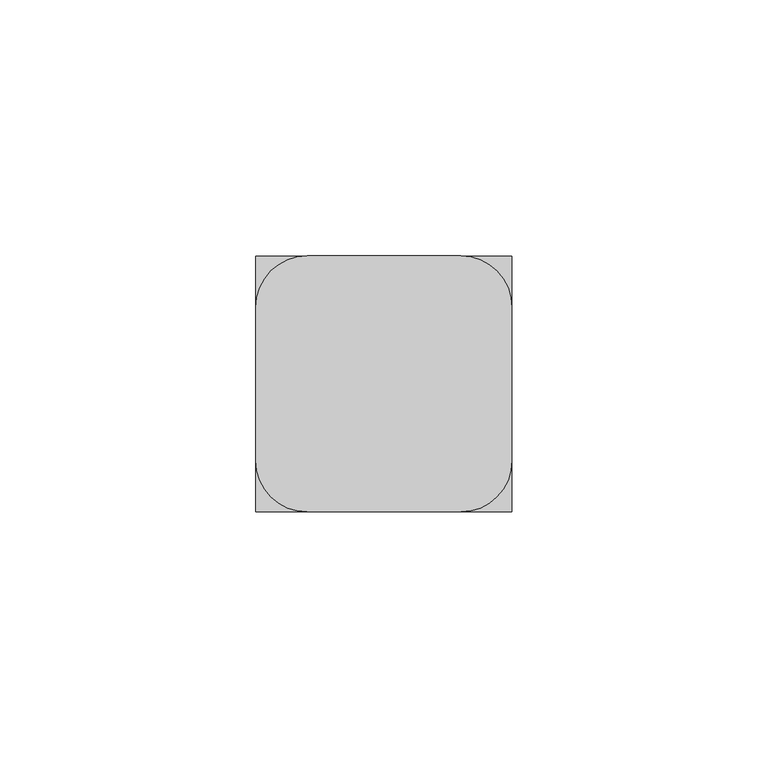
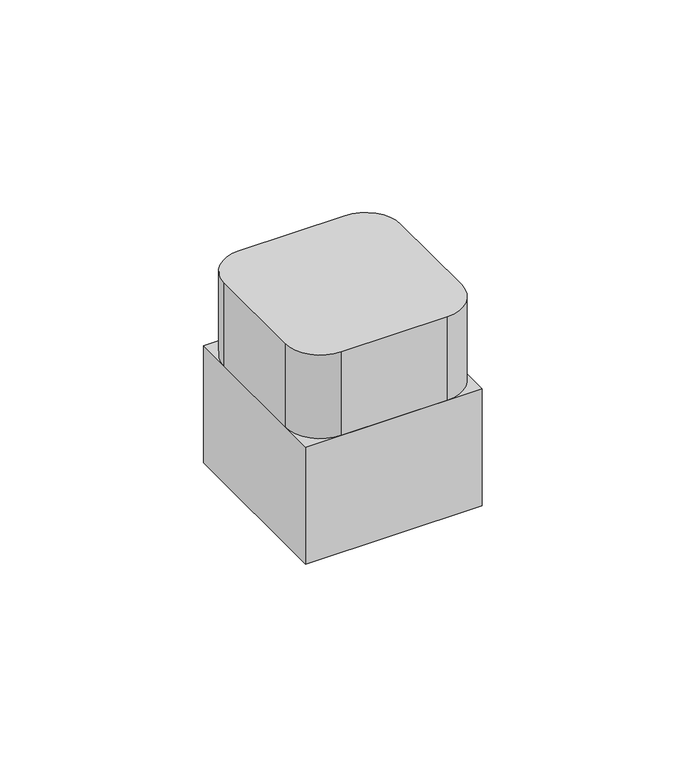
"""IFC4 building model written with IfcOpenShell, lengths in millimetres: furniture geometry, Pixel_Single : Pixel_Single."""

from ifc_helpers import new_model, si_unit, point, frame, frame_2d, origin, origin_with_axes, place, context, project, spatial, polyline, circle_curve, trimmed, segment, composite_curve, outline, extrude, source, transform, mapped, element, save


def furniture_5129da02(model_context):
    return source(origin(), model_context, "Body", "SweptSolid", [
        extrude(outline(composite_curve([segment(trimmed(circle_curve(frame_2d((10.0, 40.0)), 10.0), [point((0.0, 40.0))], [point((10.0, 50.0))], False, "CARTESIAN"), True, "CONTINUOUS"), segment(polyline([(10.0, 50.0), (40.0, 50.0)]), True, "CONTINUOUS"), segment(trimmed(circle_curve(frame_2d((40.0, 40.0)), 10.0), [point((40.0, 50.0))], [point((50.0, 40.0))], False, "CARTESIAN"), True, "CONTINUOUS"), segment(polyline([(50.0, 40.0), (50.0, 10.0)]), True, "CONTINUOUS"), segment(trimmed(circle_curve(frame_2d((40.0, 10.0)), 10.0), [point((50.0, 10.0))], [point((40.0, 0.0))], False, "CARTESIAN"), True, "CONTINUOUS"), segment(polyline([(40.0, 0.0), (10.0, 0.0)]), True, "CONTINUOUS"), segment(trimmed(circle_curve(frame_2d((10.0, 10.0)), 10.0), [point((10.0, 0.0))], [point((0.0, 10.0))], False, "CARTESIAN"), True, "CONTINUOUS"), segment(polyline([(0.0, 10.0), (0.0, 40.0)]), True, "CONTINUOUS")], self_intersect=False)), frame((0.0, 0.0, 35.0), z_axis=(0.0, 0.0, 1.0), x_axis=(1.0, 0.0, 0.0)), (0.0, 0.0, 1.0), 25.0),
        extrude(outline(polyline([(50.0, 50.0), (50.0, 0.0), (0.0, 0.0), (0.0, 50.0), (50.0, 50.0)])), origin_with_axes(), (0.0, 0.0, 1.0), 35.0),
    ])


if __name__ == "__main__":
    model = new_model("IFC4")
    model_context = context("Model", 3, world=origin())
    ifc_project = project(units=[si_unit("LENGTHUNIT", "METRE", prefix="MILLI")], contexts=[model_context])
    site = spatial("IfcSite", under=ifc_project)
    building = spatial("IfcBuilding", under=site)
    placement = place(None, origin())
    furniture_shape = furniture_5129da02(model_context)
    element("IfcFurniture", 1, ObjectType="Pixel_Single : Pixel_Single", at=placement, inside=building, context=model_context, shape_type="MappedRepresentation", body=[
        mapped(furniture_shape, transform((0.0, 0.0, 0.0), x_axis=(1.0, 0.0, 0.0), y_axis=(0.0, 1.0, 0.0), z_axis=(0.0, 0.0, 1.0))),
    ])
    save(model, "model.ifc")
